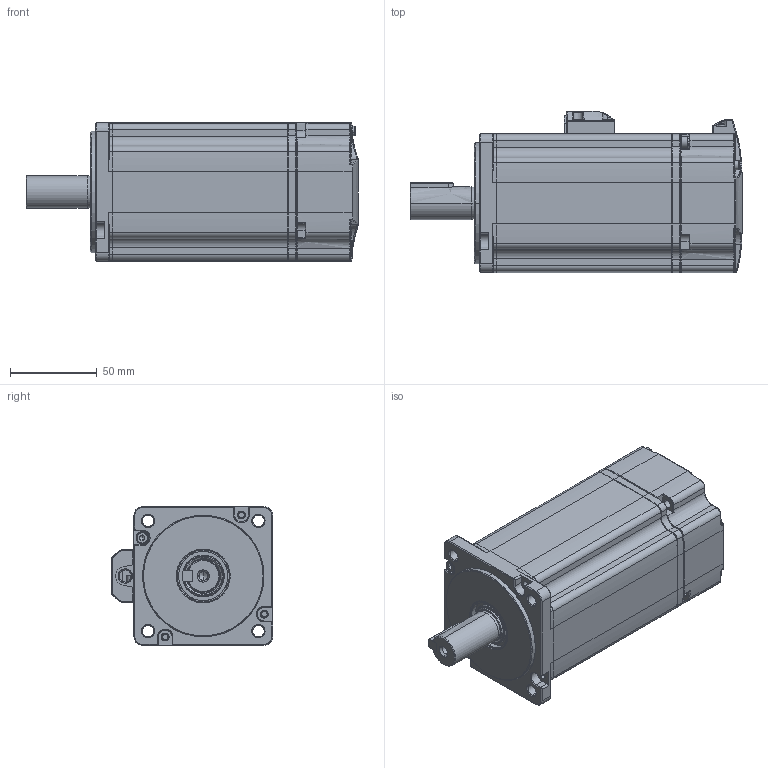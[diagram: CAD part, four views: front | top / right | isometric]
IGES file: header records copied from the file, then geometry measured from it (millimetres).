
Start section: SolidWorks IGES file using analytic representation for surfaces
Bounding box: 191.5 x 93 x 80 mm (x, y, z)
Surface area: 192640 mm2 (no closed solid volume)
Topology: 0 solids, 0 shells, 2050 faces, 25544 edges, 25461 vertices
Faces by surface type: revolution 1048, bspline 1002
